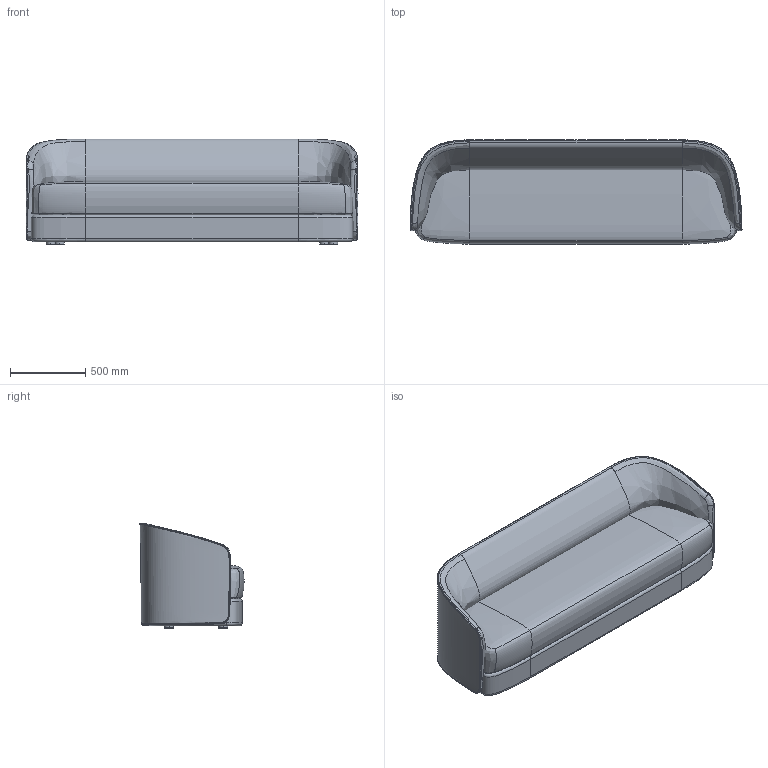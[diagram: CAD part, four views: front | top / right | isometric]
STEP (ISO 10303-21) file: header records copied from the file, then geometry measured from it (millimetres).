
FILE_DESCRIPTION(/* description */ (''),/* implementation_level */ '2;1');
FILE_NAME(/* name */ 'Covent Sofa 3. perss',/* time_stamp */ '2019-04-16T16:43:17+02:00',/* author */ (''),/* organization */ (''),/* preprocessor_version */ 'ST-DEVELOPER v15',/* originating_system */ '',/* authorisation */ '');
FILE_SCHEMA (('AUTOMOTIVE_DESIGN'));
Length unit declared in the file: millimetre
Products named in the file (3): Document; Block 03; Block 01
Assembly tree (2 placements, depth 2):
  Document
    Block 03
    Block 01
Bounding box: 2203.96 x 691.01 x 703.26 mm (x, y, z)
Volume: 260787826.2 mm3; surface area: 11242398.3 mm2
Topology: 6 solids, 16 shells, 138 faces, 317 edges, 188 vertices
Faces by surface type: bspline 122, plane 16
Entity records: 55689 total; most frequent: CARTESIAN_POINT 53589, ORIENTED_EDGE 584, EDGE_CURVE 317, B_SPLINE_CURVE_WITH_KNOTS 223, VERTEX_POINT 188, ADVANCED_FACE 138, FACE_OUTER_BOUND 138, EDGE_LOOP 138
